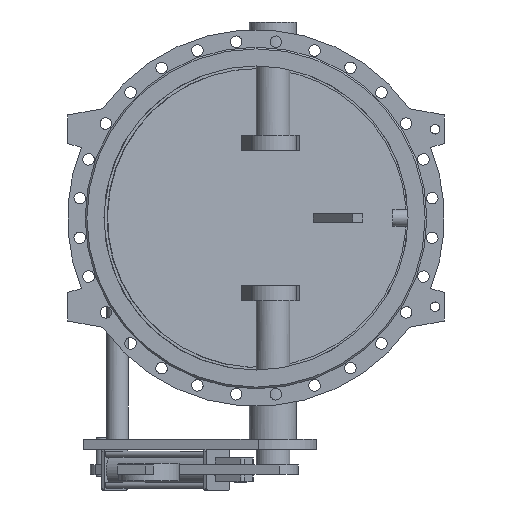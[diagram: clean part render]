
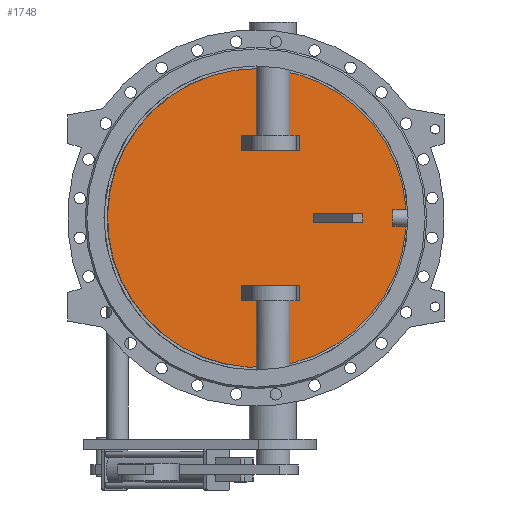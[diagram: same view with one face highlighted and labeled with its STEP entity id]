
A CAD part, front view. The second image highlights one B-rep face of the part: STEP entity #1748.
In plain terms, the highlighted planar face has unit normal (0.131, -0.991, 0).
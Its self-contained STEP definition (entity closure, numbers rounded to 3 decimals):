
#1748=ADVANCED_FACE('',(#3909,#3911,#3913,#3915),#3917,.T.);
#3909=FACE_BOUND('',#3910,.T.);
#3910=EDGE_LOOP('',(#5096));
#3911=FACE_BOUND('',#3912,.T.);
#3912=EDGE_LOOP('',(#5097,#5098,#5099,#5100));
#3913=FACE_BOUND('',#3914,.T.);
#3914=EDGE_LOOP('',(#5101,#5102,#5103,#5104));
#3915=FACE_BOUND('',#3916,.T.);
#3916=EDGE_LOOP('',(#5105,#5106,#5107,#5108));
#3917=PLANE('',#3918);
#3918=AXIS2_PLACEMENT_3D('',#3919,#3920,#3921);
#3919=CARTESIAN_POINT('',(-1.272,9.66,0.));
#3920=DIRECTION('',(0.131,-0.991,0.));
#3921=DIRECTION('',(0.,0.,-1.));
#5096=ORIENTED_EDGE('',*,*,#5628,.T.);
#5097=ORIENTED_EDGE('',*,*,#5645,.F.);
#5098=ORIENTED_EDGE('',*,*,#5646,.F.);
#5099=ORIENTED_EDGE('',*,*,#5647,.F.);
#5100=ORIENTED_EDGE('',*,*,#5648,.F.);
#5101=ORIENTED_EDGE('',*,*,#5649,.F.);
#5102=ORIENTED_EDGE('',*,*,#5650,.F.);
#5103=ORIENTED_EDGE('',*,*,#5651,.F.);
#5104=ORIENTED_EDGE('',*,*,#5652,.F.);
#5105=ORIENTED_EDGE('',*,*,#5653,.F.);
#5106=ORIENTED_EDGE('',*,*,#5654,.F.);
#5107=ORIENTED_EDGE('',*,*,#5655,.F.);
#5108=ORIENTED_EDGE('',*,*,#5656,.F.);
#5628=EDGE_CURVE('',#6434,#6434,#6435,.T.);
#5645=EDGE_CURVE('',#6468,#6469,#6470,.T.);
#5646=EDGE_CURVE('',#6471,#6468,#6472,.F.);
#5647=EDGE_CURVE('',#6473,#6471,#6474,.T.);
#5648=EDGE_CURVE('',#6469,#6473,#6475,.T.);
#5649=EDGE_CURVE('',#6476,#6477,#6478,.F.);
#5650=EDGE_CURVE('',#6479,#6476,#6480,.T.);
#5651=EDGE_CURVE('',#6481,#6479,#6482,.T.);
#5652=EDGE_CURVE('',#6477,#6481,#6483,.T.);
#5653=EDGE_CURVE('',#6484,#6485,#6486,.T.);
#5654=EDGE_CURVE('',#6487,#6484,#6488,.F.);
#5655=EDGE_CURVE('',#6489,#6487,#6490,.F.);
#5656=EDGE_CURVE('',#6485,#6489,#6491,.F.);
#6434=VERTEX_POINT('',#9662);
#6435=B_SPLINE_CURVE_WITH_KNOTS('',3,
(#9663,#9664,#9665,#9666,#9667,#9668,#9669,#9670,#9671,#9672,#9673,#9674,#9675,#9676,
#9677,#9678,#9679,#9680,#9681,#9682,#9683,#9684,#9685,#9686,#9687,#9688,#9689,#9690,
#9691,#9692,#9693,#9694,#9695,#9696,#9697,#9698,#9699,#9700,#9701,#9702,#9703,#9704,
#9705,#9706,#9707,#9708,#9709,#9710,#9711,#9712,#9713),
.UNSPECIFIED.,.T.,.F.,
(4,1,1,1,1,1,1,1,1,1,1,1,1,1,1,1,1,1,1,1,1,1,1,1,1,1,1,1,1,1,1,1,1,1,1,1,1,1,1,1,
1,1,1,1,1,1,1,1,4),
(0.,0.021,0.042,0.063,0.084,
0.105,0.126,0.147,0.168,0.189,
0.211,0.232,0.253,0.274,0.295,
0.316,0.337,0.358,0.379,0.4,
0.421,0.442,0.463,0.484,0.505,
0.527,0.548,0.569,0.59,0.611,
0.632,0.653,0.674,0.695,0.716,
0.737,0.758,0.779,0.8,0.821,
0.842,0.864,0.885,0.906,0.927,
0.948,0.969,0.986,1.),
.UNSPECIFIED.);
#6468=VERTEX_POINT('',#10228);
#6469=VERTEX_POINT('',#10229);
#6470=LINE('',#10230,#10231);
#6471=VERTEX_POINT('',#10233);
#6472=LINE('',#10234,#10235);
#6473=VERTEX_POINT('',#10237);
#6474=LINE('',#10238,#10239);
#6475=LINE('',#10241,#10242);
#6476=VERTEX_POINT('',#10244);
#6477=VERTEX_POINT('',#10245);
#6478=LINE('',#10246,#10247);
#6479=VERTEX_POINT('',#10249);
#6480=LINE('',#10250,#10251);
#6481=VERTEX_POINT('',#10253);
#6482=LINE('',#10254,#10255);
#6483=LINE('',#10257,#10258);
#6484=VERTEX_POINT('',#10260);
#6485=VERTEX_POINT('',#10261);
#6486=LINE('',#10262,#10263);
#6487=VERTEX_POINT('',#10265);
#6488=LINE('',#10266,#10267);
#6489=VERTEX_POINT('',#10269);
#6490=LINE('',#10270,#10271);
#6491=LINE('',#10273,#10274);
#9662=CARTESIAN_POINT('',(2.611,10.171,442.));
#9663=CARTESIAN_POINT('',(2.611,10.171,442.));
#9664=CARTESIAN_POINT('',(-16.814,7.614,442.));
#9665=CARTESIAN_POINT('',(-55.709,2.493,439.433));
#9666=CARTESIAN_POINT('',(-113.11,-5.064,427.925));
#9667=CARTESIAN_POINT('',(-168.567,-12.365,408.921));
#9668=CARTESIAN_POINT('',(-221.061,-19.276,382.746));
#9669=CARTESIAN_POINT('',(-269.627,-25.67,349.883));
#9670=CARTESIAN_POINT('',(-313.427,-31.436,310.9));
#9671=CARTESIAN_POINT('',(-351.695,-36.474,266.485));
#9672=CARTESIAN_POINT('',(-383.763,-40.696,217.416));
#9673=CARTESIAN_POINT('',(-409.073,-44.028,164.549));
#9674=CARTESIAN_POINT('',(-427.186,-46.413,108.81));
#9675=CARTESIAN_POINT('',(-437.786,-47.808,51.171));
#9676=CARTESIAN_POINT('',(-440.688,-48.19,-7.361));
#9677=CARTESIAN_POINT('',(-435.843,-47.552,-65.765));
#9678=CARTESIAN_POINT('',(-423.335,-45.906,-123.022));
#9679=CARTESIAN_POINT('',(-403.379,-43.278,-178.132));
#9680=CARTESIAN_POINT('',(-376.324,-39.717,-230.132));
#9681=CARTESIAN_POINT('',(-342.639,-35.282,-278.114));
#9682=CARTESIAN_POINT('',(-302.912,-30.052,-321.237));
#9683=CARTESIAN_POINT('',(-257.834,-24.117,-358.745));
#9684=CARTESIAN_POINT('',(-208.194,-17.582,-389.98));
#9685=CARTESIAN_POINT('',(-154.858,-10.56,-414.392));
#9686=CARTESIAN_POINT('',(-98.761,-3.175,-431.551));
#9687=CARTESIAN_POINT('',(-40.887,4.445,-441.155));
#9688=CARTESIAN_POINT('',(17.75,12.164,-443.035));
#9689=CARTESIAN_POINT('',(76.121,19.849,-437.158));
#9690=CARTESIAN_POINT('',(133.201,27.364,-423.628));
#9691=CARTESIAN_POINT('',(187.99,34.577,-402.683));
#9692=CARTESIAN_POINT('',(239.529,41.362,-374.694));
#9693=CARTESIAN_POINT('',(286.917,47.601,-340.151));
#9694=CARTESIAN_POINT('',(329.326,53.184,-299.663));
#9695=CARTESIAN_POINT('',(366.016,58.014,-253.939));
#9696=CARTESIAN_POINT('',(396.348,62.008,-203.78));
#9697=CARTESIAN_POINT('',(419.795,65.094,-150.062));
#9698=CARTESIAN_POINT('',(435.948,67.221,-93.725));
#9699=CARTESIAN_POINT('',(444.526,68.35,-35.752));
#9700=CARTESIAN_POINT('',(445.381,68.463,22.846));
#9701=CARTESIAN_POINT('',(438.498,67.557,81.046));
#9702=CARTESIAN_POINT('',(423.995,65.647,137.831));
#9703=CARTESIAN_POINT('',(402.125,62.768,192.211));
#9704=CARTESIAN_POINT('',(373.267,58.969,243.236));
#9705=CARTESIAN_POINT('',(337.925,54.316,290.012));
#9706=CARTESIAN_POINT('',(296.711,48.89,331.723));
#9707=CARTESIAN_POINT('',(250.359,42.788,367.624));
#9708=CARTESIAN_POINT('',(199.733,36.123,397.062));
#9709=CARTESIAN_POINT('',(145.566,28.992,419.62));
#9710=CARTESIAN_POINT('',(92.142,21.958,433.952));
#9711=CARTESIAN_POINT('',(44.11,15.635,440.759));
#9712=CARTESIAN_POINT('',(15.294,11.841,442.));
#9713=CARTESIAN_POINT('',(2.611,10.171,442.));
#10228=CARTESIAN_POINT('',(293.931,48.524,-12.5));
#10229=CARTESIAN_POINT('',(293.931,48.524,12.5));
#10230=CARTESIAN_POINT('',(293.931,48.524,-12.5));
#10231=VECTOR('',#10232,1.);
#10232=DIRECTION('',(0.,0.,1.));
#10233=CARTESIAN_POINT('',(170.,32.208,-12.5));
#10234=CARTESIAN_POINT('',(293.931,48.524,-12.5));
#10235=VECTOR('',#10236,1.);
#10236=DIRECTION('',(-0.991,-0.131,0.));
#10237=CARTESIAN_POINT('',(170.,32.208,12.5));
#10238=CARTESIAN_POINT('',(170.,32.208,12.5));
#10239=VECTOR('',#10240,1.);
#10240=DIRECTION('',(0.,0.,-1.));
#10241=CARTESIAN_POINT('',(293.931,48.524,12.5));
#10242=VECTOR('',#10243,1.);
#10243=DIRECTION('',(-0.991,-0.131,0.));
#10244=CARTESIAN_POINT('',(-44.007,4.034,-245.));
#10245=CARTESIAN_POINT('',(129.407,26.864,-245.));
#10246=CARTESIAN_POINT('',(129.407,26.864,-245.));
#10247=VECTOR('',#10248,1.);
#10248=DIRECTION('',(-0.991,-0.131,0.));
#10249=CARTESIAN_POINT('',(-44.007,4.034,-200.));
#10250=CARTESIAN_POINT('',(-44.007,4.034,-200.));
#10251=VECTOR('',#10252,1.);
#10252=DIRECTION('',(0.,0.,-1.));
#10253=CARTESIAN_POINT('',(129.407,26.864,-200.));
#10254=CARTESIAN_POINT('',(129.407,26.864,-200.));
#10255=VECTOR('',#10256,1.);
#10256=DIRECTION('',(-0.991,-0.131,0.));
#10257=CARTESIAN_POINT('',(129.407,26.864,-245.));
#10258=VECTOR('',#10259,1.);
#10259=DIRECTION('',(0.,0.,1.));
#10260=CARTESIAN_POINT('',(129.407,26.864,245.));
#10261=CARTESIAN_POINT('',(-44.007,4.034,245.));
#10262=CARTESIAN_POINT('',(129.407,26.864,245.));
#10263=VECTOR('',#10264,1.);
#10264=DIRECTION('',(-0.991,-0.131,0.));
#10265=CARTESIAN_POINT('',(129.407,26.864,200.));
#10266=CARTESIAN_POINT('',(129.407,26.864,245.));
#10267=VECTOR('',#10268,1.);
#10268=DIRECTION('',(0.,0.,-1.));
#10269=CARTESIAN_POINT('',(-44.007,4.034,200.));
#10270=CARTESIAN_POINT('',(129.407,26.864,200.));
#10271=VECTOR('',#10272,1.);
#10272=DIRECTION('',(-0.991,-0.131,0.));
#10273=CARTESIAN_POINT('',(-44.007,4.034,200.));
#10274=VECTOR('',#10275,1.);
#10275=DIRECTION('',(0.,0.,1.));
